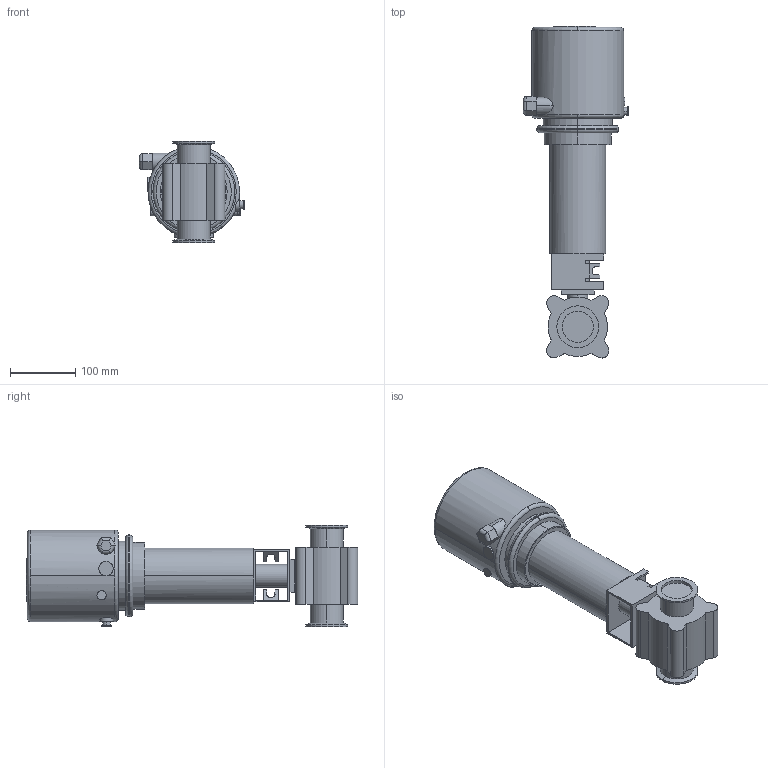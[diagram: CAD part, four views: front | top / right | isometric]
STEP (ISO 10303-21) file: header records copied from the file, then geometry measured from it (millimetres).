
FILE_DESCRIPTION(('Creo Elements/Direct Modeling STEP Export'),'2;1');
FILE_NAME('BLV1-2T-NC-12CL-CU4.stp','2019-05-10T 8:20:38',(''),(''),'Creo Elements/Direct Modeling STEP processor for AP214 (Solid Model)','Creo Elements/Direct Modeling 19.0F 14-Feb-2017 (C) Parametric Technology GmbH','');
FILE_SCHEMA(('AUTOMOTIVE_DESIGN { 1 0 10303 214 1 1 1 1 }'));
Length unit declared in the file: millimetre
Products named in the file (2): BLV1-2T-NC-12CL-CU4
Assembly tree (1 placements, depth 2):
  BLV1-2T-NC-12CL-CU4
    BLV1-2T-NC-12CL-CU4
Bounding box: 161.4 x 507.56 x 155.5 mm (x, y, z)
Volume: 4407338.6 mm3; surface area: 271861.5 mm2
Topology: 1 solids, 1 shells, 235 faces, 593 edges, 384 vertices
Faces by surface type: cylinder 113, plane 104, torus 10, extrusion 4, cone 4
Entity records: 10048 total; most frequent: CARTESIAN_POINT 4446, ORIENTED_EDGE 1188, DIRECTION 1102, EDGE_CURVE 594, AXIS2_PLACEMENT_3D 406, VERTEX_POINT 384, VECTOR 290, LINE 286
